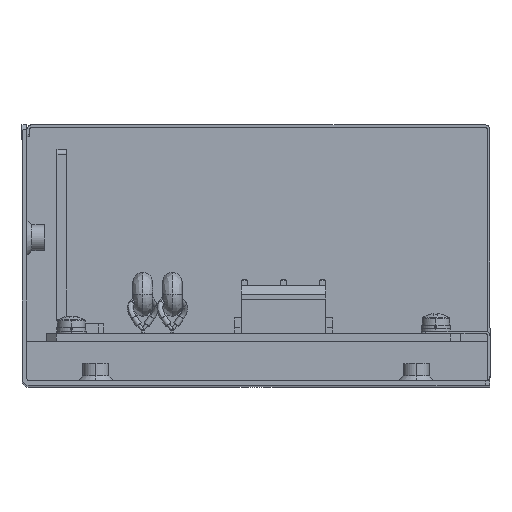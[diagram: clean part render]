
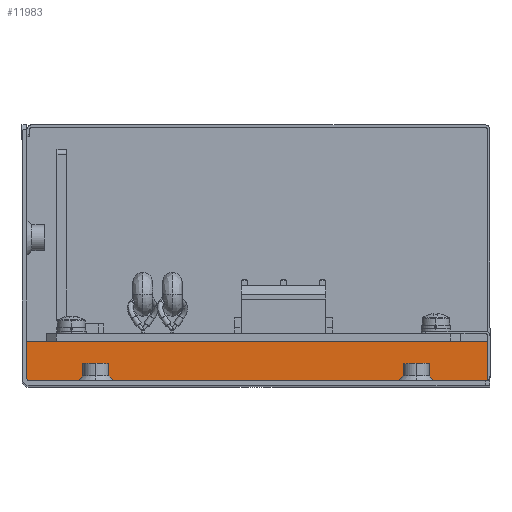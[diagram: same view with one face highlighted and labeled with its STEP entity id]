
A CAD part, top view. The second image highlights one B-rep face of the part: STEP entity #11983.
In plain terms, the highlighted planar face has unit normal (0, 0, 1).
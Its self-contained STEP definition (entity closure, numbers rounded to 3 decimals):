
#764 = EDGE_CURVE ( 'NONE', #8094, #17189, #11192, .T. ) ;
#781 = CARTESIAN_POINT ( 'NONE',  ( -94., 9., -16.1 ) ) ;
#875 = CARTESIAN_POINT ( 'NONE',  ( -94., 1.5, -16.1 ) ) ;
#880 = EDGE_CURVE ( 'NONE', #21370, #14247, #12685, .T. ) ;
#1264 = CARTESIAN_POINT ( 'NONE',  ( -94., 9., -16.1 ) ) ;
#1431 = CARTESIAN_POINT ( 'NONE',  ( -95., 1., -16.1 ) ) ;
#1947 = ORIENTED_EDGE ( 'NONE', *, *, #20590, .F. ) ;
#2535 = VECTOR ( 'NONE', #2918, 1000. ) ;
#2918 = DIRECTION ( 'NONE',  ( 1., 0., 0. ) ) ;
#4006 = LINE ( 'NONE', #781, #11696 ) ;
#6167 = CARTESIAN_POINT ( 'NONE',  ( -0.5, 9., -16.1 ) ) ;
#6521 = FACE_OUTER_BOUND ( 'NONE', #28308, .T. ) ;
#7825 = VERTEX_POINT ( 'NONE', #15900 ) ;
#8094 = VERTEX_POINT ( 'NONE', #20809 ) ;
#8273 = EDGE_CURVE ( 'NONE', #17189, #7825, #24480, .T. ) ;
#9813 = DIRECTION ( 'NONE',  ( 1., 0., 0. ) ) ;
#10520 = ORIENTED_EDGE ( 'NONE', *, *, #24481, .F. ) ;
#10622 = VECTOR ( 'NONE', #17831, 1000. ) ;
#11180 = DIRECTION ( 'NONE',  ( 1., 0., 0. ) ) ;
#11192 = LINE ( 'NONE', #1431, #17026 ) ;
#11696 = VECTOR ( 'NONE', #29448, 1000. ) ;
#11983 = ADVANCED_FACE ( 'NONE', ( #6521 ), #28537, .F. ) ;
#12685 = LINE ( 'NONE', #6167, #2535 ) ;
#13049 = CARTESIAN_POINT ( 'NONE',  ( -0.5, 9., -16.1 ) ) ;
#13165 = ORIENTED_EDGE ( 'NONE', *, *, #8273, .T. ) ;
#13503 = VERTEX_POINT ( 'NONE', #875 ) ;
#13577 = DIRECTION ( 'NONE',  ( 1., 0., 0. ) ) ;
#13592 = VERTEX_POINT ( 'NONE', #31622 ) ;
#13925 = AXIS2_PLACEMENT_3D ( 'NONE', #30225, #27039, #23822 ) ;
#14247 = VERTEX_POINT ( 'NONE', #16547 ) ;
#14436 = CARTESIAN_POINT ( 'NONE',  ( -0.5, 9., -16.1 ) ) ;
#15522 = ORIENTED_EDGE ( 'NONE', *, *, #21686, .F. ) ;
#15708 = ORIENTED_EDGE ( 'NONE', *, *, #26507, .F. ) ;
#15900 = CARTESIAN_POINT ( 'NONE',  ( -0.5, 9., -16.1 ) ) ;
#16459 = CARTESIAN_POINT ( 'NONE',  ( -0.5, 1., -16.1 ) ) ;
#16547 = CARTESIAN_POINT ( 'NONE',  ( -88.1, 9., -16.1 ) ) ;
#16899 = DIRECTION ( 'NONE',  ( 0., 0., -1. ) ) ;
#17026 = VECTOR ( 'NONE', #30091, 1000. ) ;
#17189 = VERTEX_POINT ( 'NONE', #16459 ) ;
#17227 = AXIS2_PLACEMENT_3D ( 'NONE', #20242, #16899, #13577 ) ;
#17760 = LINE ( 'NONE', #14436, #21756 ) ;
#17831 = DIRECTION ( 'NONE',  ( 0., 1., 0. ) ) ;
#17845 = CIRCLE ( 'NONE', #17227, 0.5 ) ;
#19695 = LINE ( 'NONE', #13049, #28523 ) ;
#20242 = CARTESIAN_POINT ( 'NONE',  ( -93.5, 1.5, -16.1 ) ) ;
#20590 = EDGE_CURVE ( 'NONE', #13503, #21370, #4006, .T. ) ;
#20809 = CARTESIAN_POINT ( 'NONE',  ( -93.5, 1., -16.1 ) ) ;
#21190 = CARTESIAN_POINT ( 'NONE',  ( -0.5, 9., -16.1 ) ) ;
#21370 = VERTEX_POINT ( 'NONE', #1264 ) ;
#21686 = EDGE_CURVE ( 'NONE', #13592, #7825, #17760, .T. ) ;
#21756 = VECTOR ( 'NONE', #11180, 1000. ) ;
#23171 = ORIENTED_EDGE ( 'NONE', *, *, #764, .T. ) ;
#23822 = DIRECTION ( 'NONE',  ( 0., 1., 0. ) ) ;
#24480 = LINE ( 'NONE', #21190, #10622 ) ;
#24481 = EDGE_CURVE ( 'NONE', #14247, #13592, #19695, .T. ) ;
#26225 = ORIENTED_EDGE ( 'NONE', *, *, #880, .F. ) ;
#26507 = EDGE_CURVE ( 'NONE', #8094, #13503, #17845, .T. ) ;
#27039 = DIRECTION ( 'NONE',  ( 0., 0., -1. ) ) ;
#28308 = EDGE_LOOP ( 'NONE', ( #15708, #23171, #13165, #15522, #10520, #26225, #1947 ) ) ;
#28523 = VECTOR ( 'NONE', #9813, 1000. ) ;
#28537 = PLANE ( 'NONE',  #13925 ) ;
#29448 = DIRECTION ( 'NONE',  ( 0., 1., 0. ) ) ;
#30091 = DIRECTION ( 'NONE',  ( 1., 0., 0. ) ) ;
#30225 = CARTESIAN_POINT ( 'NONE',  ( -0.5, 9., -16.1 ) ) ;
#31622 = CARTESIAN_POINT ( 'NONE',  ( -7.9, 9., -16.1 ) ) ;
